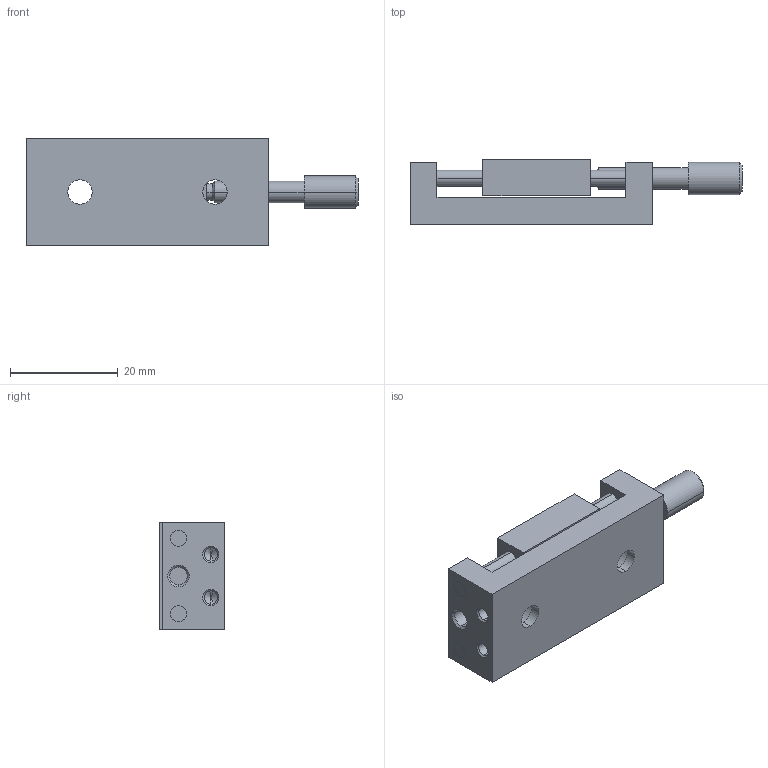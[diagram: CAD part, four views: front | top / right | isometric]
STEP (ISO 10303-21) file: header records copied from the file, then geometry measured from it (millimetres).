
FILE_DESCRIPTION (( 'STEP AP203' ), '1' );
FILE_NAME ('BHJ20.STEP', '2024-02-28T01:51:43', ( 'China' ), ( 'Microsoft' ), 'SwSTEP 2.0', 'SolidWorks 2024', '' );
FILE_SCHEMA (( 'CONFIG_CONTROL_DESIGN' ));
Length unit declared in the file: millimetre
Products named in the file (1): BHJ20
Bounding box: 61.49 x 12 x 20 mm (x, y, z)
Volume: 8491.1 mm3; surface area: 6435.7 mm2
Topology: 3 solids, 3 shells, 122 faces, 282 edges, 172 vertices
Faces by surface type: cylinder 50, cone 40, plane 32
Entity records: 3565 total; most frequent: DIRECTION 658, CARTESIAN_POINT 573, ORIENTED_EDGE 556, EDGE_CURVE 278, AXIS2_PLACEMENT_3D 257, VERTEX_POINT 172, EDGE_LOOP 160, VECTOR 144
